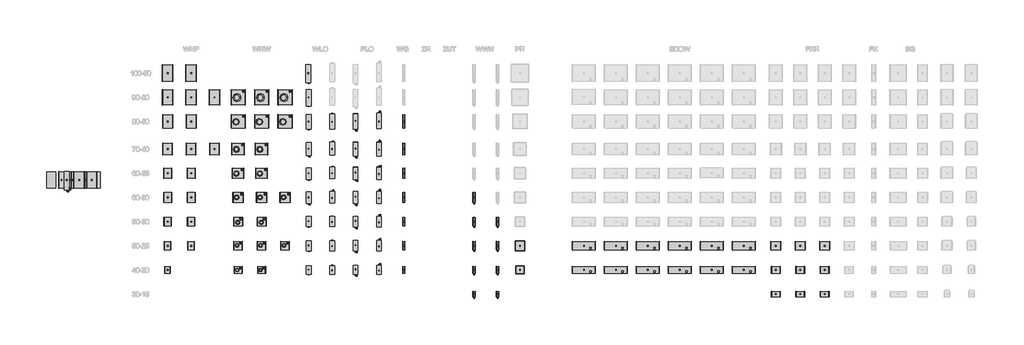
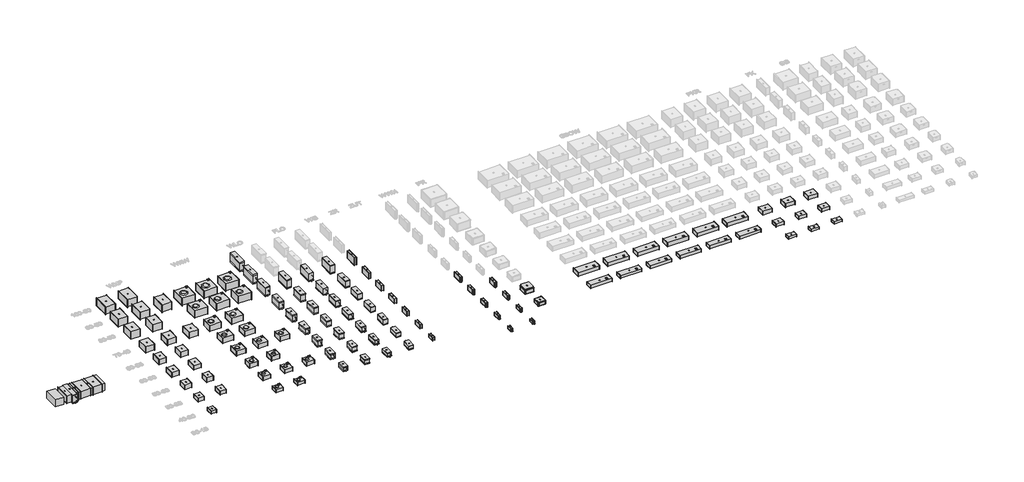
# One storey, part 1 of 9: 83 proxies, 32 dampers, 3 duct segments.
"""IFC4 building model written with IfcOpenShell, lengths in millimetres."""

from ifc_helpers import new_model, si_unit, frame, origin, place, context, project, spatial, polyline, outline, extrude, transform, mapped, element, save
from components import wnp_50_25_20_2d_491e72d1, mechanical_equipment_96fa3fb9, mechanical_equipment_ed128b01, mechanical_equipment_9e790e20, mechanical_equipment_6643551e, mechanical_equipment_3ebce5d1, mechanical_equipment_f3fb8328, mechanical_equipment_9a050dc8, wrw_40_20_20_4d_4732bad7, wrw_50_25_22_4d_2cb7c56a, wrw_50_30_25_4d_f64196a9, mechanical_equipment_9d130766, mechanical_equipment_bd0e9997, mechanical_equipment_36b7a56c, mechanical_equipment_1e1dd59d, mechanical_equipment_40f2264b, mechanical_equipment_7da425eb, mechanical_equipment_687dd05c, mechanical_equipment_ddcf3e9b, mechanical_equipment_01a4f095, mechanical_equipment_082081eb, mechanical_equipment_5a072199, mechanical_equipment_33aa0dfe, mechanical_equipment_a385d8bf, mechanical_equipment_c529c1b8, mechanical_equipment_b5ee6b95, mechanical_equipment_70065276, pr_40_20_e5f7a301, pr_50_25_8f3e1ca6, wlo_100_50_bef854ee, wlo_40_20_65b91585, wlo_40_20_1f1df35e, wlo_50_25_8c046ca8, wlo_50_25_9d767189, wlo_50_30_7f3f5454, wlo_50_30_83ce51d4, wlo_60_30_512c8331, wlo_60_30_cd8e7dff, wlo_60_35_f9e17485, wlo_60_35_79592b4e, wlo_70_40_d1fca8c2, wlo_70_40_cb6bbf7d, wlo_80_50_4877637b, wlo_80_50_446b80be, wlo_90_50_f1975830, wnp_40_20_18_2d_4dba3430, wrw_60_30_28_4d_8c32eb9e, wrw_60_35_31_4d_17e4d894, wrw_70_40_35_4d_a58d766e, wrw_80_50_40_4d_fa69a5ef, wrw_90_50_45_4d_e7116b24, wwn_100_50_2_a8e9ff89, wwn_30_15_2_497b38e8, wwn_40_20_2_b6206a83, wwn_50_25_2_c194b101, wwn_50_30_2_9f387721, wwn_60_30_2_c555eadd, damper_f009ec1c, damper_fbb5e040, damper_4ee24c56, damper_e6b95275, damper_6339f878, damper_dfc493b6, damper_105bf92a, damper_05f9109e, fku_100_50_21f81071, sg_100_50_6_c8bbc382, wg_100_50_6149abaa, wg_40_20_65d9a09b, wg_50_25_0bfe564b, wg_50_30_a35d14c7, wg_60_30_7123790e, wg_60_35_c44a4c4a, wg_70_40_4a08e537, wg_80_50_3d6b2e59

model = new_model("IFC4")

# Units and contexts
model_context = context("Model", 3, world=origin())
ifc_project = project(units=[si_unit("LENGTHUNIT", "METRE", prefix="MILLI")], contexts=[model_context])

# Site, building, storey
site = spatial("IfcSite", under=ifc_project)
building = spatial("IfcBuilding", under=site)
storey = spatial("IfcBuildingStorey", under=building, Name="KORF_Уровень 1", Elevation=0.0)

# Proxies
placement = place(None, origin())
wnp_50_25_20_2d_shape = wnp_50_25_20_2d_491e72d1(model_context)
element("IfcBuildingElementProxy", 1, Name="KORF_Вентилятор_WNP : WNP 50-25/22R.2D", ObjectType="KORF_Вентилятор_WNP : WNP 50-25/22R.2D", at=placement, inside=storey, context=model_context, shape_type="MappedRepresentation", body=[
    mapped(wnp_50_25_20_2d_shape, transform((-9665.384394, -16420.5510747, 0.0), x_axis=(1.0, 0.0, 0.0), y_axis=(0.0, 1.0, 0.0), z_axis=(0.0, 0.0, 1.0))),
])
mechanical_equipment_shape = mechanical_equipment_96fa3fb9(model_context)
element("IfcBuildingElementProxy", 2, Name="KORF_Вентилятор_WNP : WNP 50-30/22R.2D", ObjectType="KORF_Вентилятор_WNP : WNP 50-30/22R.2D", at=placement, inside=storey, context=model_context, shape_type="MappedRepresentation", body=[
    mapped(mechanical_equipment_shape, transform((-8217.332009, -14906.5702672, 0.0), x_axis=(1.0, 0.0, 0.0), y_axis=(0.0, 1.0, 0.0), z_axis=(0.0, 0.0, 1.0))),
])
element("IfcBuildingElementProxy", 3, Name="KORF_Вентилятор_WNP : WNP 50-30/25R.2D", ObjectType="KORF_Вентилятор_WNP : WNP 50-30/25R.2D", at=placement, inside=storey, context=model_context, shape_type="MappedRepresentation", body=[
    mapped(mechanical_equipment_shape, transform((-9686.384394, -14906.5702672, 0.0), x_axis=(1.0, 0.0, 0.0), y_axis=(0.0, 1.0, 0.0), z_axis=(0.0, 0.0, 1.0))),
])
mechanical_equipment_2_shape = mechanical_equipment_ed128b01(model_context)
element("IfcBuildingElementProxy", 4, Name="KORF_Вентилятор_WNP : WNP 60-30/25R.2D", ObjectType="KORF_Вентилятор_WNP : WNP 60-30/25R.2D", at=placement, inside=storey, context=model_context, shape_type="MappedRepresentation", body=[
    mapped(mechanical_equipment_2_shape, transform((-8237.332009, -13392.5894597, 0.0), x_axis=(1.0, 0.0, 0.0), y_axis=(0.0, 1.0, 0.0), z_axis=(0.0, 0.0, 1.0))),
])
element("IfcBuildingElementProxy", 5, Name="KORF_Вентилятор_WNP : WNP 60-30/28R.2D", ObjectType="KORF_Вентилятор_WNP : WNP 60-30/28R.2D", at=placement, inside=storey, context=model_context, shape_type="MappedRepresentation", body=[
    mapped(mechanical_equipment_2_shape, transform((-9706.384394, -13392.5894597, 0.0), x_axis=(1.0, 0.0, 0.0), y_axis=(0.0, 1.0, 0.0), z_axis=(0.0, 0.0, 1.0))),
])
mechanical_equipment_3_shape = mechanical_equipment_9e790e20(model_context)
element("IfcBuildingElementProxy", 6, Name="KORF_Вентилятор_WNP : WNP 60-35/28R.2D", ObjectType="KORF_Вентилятор_WNP : WNP 60-35/28R.2D", at=placement, inside=storey, context=model_context, shape_type="MappedRepresentation", body=[
    mapped(mechanical_equipment_3_shape, transform((-8237.332009, -11878.6086522, 0.0), x_axis=(1.0, 0.0, 0.0), y_axis=(0.0, 1.0, 0.0), z_axis=(0.0, 0.0, 1.0))),
])
element("IfcBuildingElementProxy", 7, Name="KORF_Вентилятор_WNP : WNP 60-35/31R.2D", ObjectType="KORF_Вентилятор_WNP : WNP 60-35/31R.2D", at=placement, inside=storey, context=model_context, shape_type="MappedRepresentation", body=[
    mapped(mechanical_equipment_3_shape, transform((-9706.384394, -11878.6086522, 0.0), x_axis=(1.0, 0.0, 0.0), y_axis=(0.0, 1.0, 0.0), z_axis=(0.0, 0.0, 1.0))),
])
mechanical_equipment_4_shape = mechanical_equipment_6643551e(model_context)
element("IfcBuildingElementProxy", 8, Name="KORF_Вентилятор_WNP : WNP 70-40/31R.2DM", ObjectType="KORF_Вентилятор_WNP : WNP 70-40/31R.2DM", at=placement, inside=storey, context=model_context, shape_type="MappedRepresentation", body=[
    mapped(mechanical_equipment_4_shape, transform((-6819.2796241, -10364.6278447, 0.0), x_axis=(1.0, 0.0, 0.0), y_axis=(0.0, 1.0, 0.0), z_axis=(0.0, 0.0, 1.0))),
])
element("IfcBuildingElementProxy", 9, Name="KORF_Вентилятор_WNP : WNP 70-40/31R.2D", ObjectType="KORF_Вентилятор_WNP : WNP 70-40/31R.2D", at=placement, inside=storey, context=model_context, shape_type="MappedRepresentation", body=[
    mapped(mechanical_equipment_4_shape, transform((-8288.332009, -10364.6278447, 0.0), x_axis=(1.0, 0.0, 0.0), y_axis=(0.0, 1.0, 0.0), z_axis=(0.0, 0.0, 1.0))),
])
element("IfcBuildingElementProxy", 10, Name="KORF_Вентилятор_WNP : WNP 70-40/35R.2D", ObjectType="KORF_Вентилятор_WNP : WNP 70-40/35R.2D", at=placement, inside=storey, context=model_context, shape_type="MappedRepresentation", body=[
    mapped(mechanical_equipment_4_shape, transform((-9757.384394, -10364.6278447, 0.0), x_axis=(1.0, 0.0, 0.0), y_axis=(0.0, 1.0, 0.0), z_axis=(0.0, 0.0, 1.0))),
])
mechanical_equipment_5_shape = mechanical_equipment_3ebce5d1(model_context)
element("IfcBuildingElementProxy", 11, Name="KORF_Вентилятор_WNP : WNP 80-50/35R.2D", ObjectType="KORF_Вентилятор_WNP : WNP 80-50/35R.2D", at=placement, inside=storey, context=model_context, shape_type="MappedRepresentation", body=[
    mapped(mechanical_equipment_5_shape, transform((-8305.832009, -8634.5126897, 0.0), x_axis=(1.0, 0.0, 0.0), y_axis=(0.0, 1.0, 0.0), z_axis=(0.0, 0.0, 1.0))),
])
element("IfcBuildingElementProxy", 12, Name="KORF_Вентилятор_WNP : WNP 80-50/40R.4D", ObjectType="KORF_Вентилятор_WNP : WNP 80-50/40R.4D", at=placement, inside=storey, context=model_context, shape_type="MappedRepresentation", body=[
    mapped(mechanical_equipment_5_shape, transform((-9774.884394, -8634.5126897, 0.0), x_axis=(1.0, 0.0, 0.0), y_axis=(0.0, 1.0, 0.0), z_axis=(0.0, 0.0, 1.0))),
])
mechanical_equipment_6_shape = mechanical_equipment_f3fb8328(model_context)
element("IfcBuildingElementProxy", 13, Name="KORF_Вентилятор_WNP : WNP 90-50/35R.2D", ObjectType="KORF_Вентилятор_WNP : WNP 90-50/35R.2D", at=placement, inside=storey, context=model_context, shape_type="MappedRepresentation", body=[
    mapped(mechanical_equipment_6_shape, transform((-6844.2796241, -7120.5318822, 0.0), x_axis=(1.0, 0.0, 0.0), y_axis=(0.0, 1.0, 0.0), z_axis=(0.0, 0.0, 1.0))),
])
element("IfcBuildingElementProxy", 14, Name="KORF_Вентилятор_WNP : WNP 90-50/40R.2D", ObjectType="KORF_Вентилятор_WNP : WNP 90-50/40R.2D", at=placement, inside=storey, context=model_context, shape_type="MappedRepresentation", body=[
    mapped(mechanical_equipment_6_shape, transform((-8313.332009, -7120.5318822, 0.0), x_axis=(1.0, 0.0, 0.0), y_axis=(0.0, 1.0, 0.0), z_axis=(0.0, 0.0, 1.0))),
])
element("IfcBuildingElementProxy", 15, Name="KORF_Вентилятор_WNP : WNP 90-50/40R.4D", ObjectType="KORF_Вентилятор_WNP : WNP 90-50/40R.4D", at=placement, inside=storey, context=model_context, shape_type="MappedRepresentation", body=[
    mapped(mechanical_equipment_6_shape, transform((-9782.384394, -7120.5318822, 0.0), x_axis=(1.0, 0.0, 0.0), y_axis=(0.0, 1.0, 0.0), z_axis=(0.0, 0.0, 1.0))),
])
mechanical_equipment_7_shape = mechanical_equipment_9a050dc8(model_context)
element("IfcBuildingElementProxy", 16, Name="KORF_Вентилятор_WNP : WNP 100-50/40R.2D", ObjectType="KORF_Вентилятор_WNP : WNP 100-50/40R.2D", at=placement, inside=storey, context=model_context, shape_type="MappedRepresentation", body=[
    mapped(mechanical_equipment_7_shape, transform((-8323.332009, -5606.5510747, 0.0), x_axis=(1.0, 0.0, 0.0), y_axis=(0.0, 1.0, 0.0), z_axis=(0.0, 0.0, 1.0))),
])
element("IfcBuildingElementProxy", 17, Name="KORF_Вентилятор_WNP : WNP 100-50/45R.4D", ObjectType="KORF_Вентилятор_WNP : WNP 100-50/45R.4D", at=placement, inside=storey, context=model_context, shape_type="MappedRepresentation", body=[
    mapped(mechanical_equipment_7_shape, transform((-9792.384394, -5606.5510747, 0.0), x_axis=(1.0, 0.0, 0.0), y_axis=(0.0, 1.0, 0.0), z_axis=(0.0, 0.0, 1.0))),
])
wrw_40_20_20_4d_shape = wrw_40_20_20_4d_4732bad7(model_context)
element("IfcBuildingElementProxy", 18, Name="KORF_Вентилятор_WRW : WRW 40-20/20.4Е", ObjectType="KORF_Вентилятор_WRW : WRW 40-20/20.4Е", at=placement, inside=storey, context=model_context, shape_type="MappedRepresentation", body=[
    mapped(wrw_40_20_20_4d_shape, transform((-5284.2272391, -17934.5318822, 0.0), x_axis=(1.0, 0.0, 0.0), y_axis=(0.0, 1.0, 0.0), z_axis=(0.0, 0.0, 1.0))),
])
wrw_50_25_22_4d_shape = wrw_50_25_22_4d_2cb7c56a(model_context)
element("IfcBuildingElementProxy", 19, Name="KORF_Вентилятор_WRW : WRW 50-25/22.4Е", ObjectType="KORF_Вентилятор_WRW : WRW 50-25/22.4Е", at=placement, inside=storey, context=model_context, shape_type="MappedRepresentation", body=[
    mapped(wrw_50_25_22_4d_shape, transform((-3846.1748541, -16420.5510747, 0.0), x_axis=(1.0, 0.0, 0.0), y_axis=(0.0, 1.0, 0.0), z_axis=(0.0, 0.0, 1.0))),
])
wrw_50_30_25_4d_shape = wrw_50_30_25_4d_f64196a9(model_context)
element("IfcBuildingElementProxy", 20, Name="KORF_Вентилятор_WRW : WRW 50-30/25.4Е", ObjectType="KORF_Вентилятор_WRW : WRW 50-30/25.4Е", at=placement, inside=storey, context=model_context, shape_type="MappedRepresentation", body=[
    mapped(wrw_50_30_25_4d_shape, transform((-5332.7272391, -14906.5702672, 0.0), x_axis=(1.0, 0.0, 0.0), y_axis=(0.0, 1.0, 0.0), z_axis=(0.0, 0.0, 1.0))),
])
mechanical_equipment_8_shape = mechanical_equipment_9d130766(model_context)
element("IfcBuildingElementProxy", 21, Name="KORF_Воздухоохладитель_Фреоновый_FLO_Левый : FLO 50-25", ObjectType="KORF_Воздухоохладитель_Фреоновый_FLO_Левый : FLO 50-25", at=placement, inside=storey, context=model_context, shape_type="MappedRepresentation", body=[
    mapped(mechanical_equipment_8_shape, transform((2142.0346858, -16377.5510747, 0.0), x_axis=(1.0, 0.0, 0.0), y_axis=(0.0, 1.0, 0.0), z_axis=(0.0, 0.0, 1.0))),
])
mechanical_equipment_9_shape = mechanical_equipment_bd0e9997(model_context)
element("IfcBuildingElementProxy", 22, Name="KORF_Воздухоохладитель_Фреоновый_FLO_Левый : FLO 50-30", ObjectType="KORF_Воздухоохладитель_Фреоновый_FLO_Левый : FLO 50-30", at=placement, inside=storey, context=model_context, shape_type="MappedRepresentation", body=[
    mapped(mechanical_equipment_9_shape, transform((2142.0346858, -14863.5702672, 0.0), x_axis=(1.0, 0.0, 0.0), y_axis=(0.0, 1.0, 0.0), z_axis=(0.0, 0.0, 1.0))),
])
mechanical_equipment_10_shape = mechanical_equipment_36b7a56c(model_context)
element("IfcBuildingElementProxy", 23, Name="KORF_Воздухоохладитель_Фреоновый_FLO_Левый : FLO 60-30", ObjectType="KORF_Воздухоохладитель_Фреоновый_FLO_Левый : FLO 60-30", at=placement, inside=storey, context=model_context, shape_type="MappedRepresentation", body=[
    mapped(mechanical_equipment_10_shape, transform((2142.0346858, -13349.5894597, 0.0), x_axis=(1.0, 0.0, 0.0), y_axis=(0.0, 1.0, 0.0), z_axis=(0.0, 0.0, 1.0))),
])
mechanical_equipment_11_shape = mechanical_equipment_1e1dd59d(model_context)
element("IfcBuildingElementProxy", 24, Name="KORF_Воздухоохладитель_Фреоновый_FLO_Левый : FLO 60-35", ObjectType="KORF_Воздухоохладитель_Фреоновый_FLO_Левый : FLO 60-35", at=placement, inside=storey, context=model_context, shape_type="MappedRepresentation", body=[
    mapped(mechanical_equipment_11_shape, transform((2142.0346858, -11835.6086522, 0.0), x_axis=(1.0, 0.0, 0.0), y_axis=(0.0, 1.0, 0.0), z_axis=(0.0, 0.0, 1.0))),
])
mechanical_equipment_12_shape = mechanical_equipment_40f2264b(model_context)
element("IfcBuildingElementProxy", 25, Name="KORF_Воздухоохладитель_Фреоновый_FLO_Левый : FLO 70-40", ObjectType="KORF_Воздухоохладитель_Фреоновый_FLO_Левый : FLO 70-40", at=placement, inside=storey, context=model_context, shape_type="MappedRepresentation", body=[
    mapped(mechanical_equipment_12_shape, transform((2142.0346858, -10321.6278447, 0.0), x_axis=(1.0, 0.0, 0.0), y_axis=(0.0, 1.0, 0.0), z_axis=(0.0, 0.0, 1.0))),
])
mechanical_equipment_13_shape = mechanical_equipment_7da425eb(model_context)
element("IfcBuildingElementProxy", 26, Name="KORF_Воздухоохладитель_Фреоновый_FLO_Левый : FLO 80-50", ObjectType="KORF_Воздухоохладитель_Фреоновый_FLO_Левый : FLO 80-50", at=placement, inside=storey, context=model_context, shape_type="MappedRepresentation", body=[
    mapped(mechanical_equipment_13_shape, transform((2142.0346858, -8591.5126897, 0.0), x_axis=(1.0, 0.0, 0.0), y_axis=(0.0, 1.0, 0.0), z_axis=(0.0, 0.0, 1.0))),
])
mechanical_equipment_14_shape = mechanical_equipment_687dd05c(model_context)
element("IfcBuildingElementProxy", 27, Name="KORF_Воздухоохладитель_Фреоновый_FLO_Левый : FLO 100-50", ObjectType="KORF_Воздухоохладитель_Фреоновый_FLO_Левый : FLO 100-50", at=placement, inside=storey, context=model_context, shape_type="MappedRepresentation", body=[
    mapped(mechanical_equipment_14_shape, transform((-15924.2183702, -12303.8330083, 0.0), x_axis=(1.0, 0.0, 0.0), y_axis=(0.0, 1.0, 0.0), z_axis=(0.0, 0.0, 1.0))),
])
mechanical_equipment_15_shape = mechanical_equipment_ddcf3e9b(model_context)
element("IfcBuildingElementProxy", 28, Name="KORF_Воздухоохладитель_Фреоновый_FLO_Левый : FLO 40-20", ObjectType="KORF_Воздухоохладитель_Фреоновый_FLO_Левый : FLO 40-20", at=placement, inside=storey, context=model_context, shape_type="MappedRepresentation", body=[
    mapped(mechanical_equipment_15_shape, transform((2142.0346858, -17891.5318822, 0.0), x_axis=(1.0, 0.0, 0.0), y_axis=(0.0, 1.0, 0.0), z_axis=(0.0, 0.0, 1.0))),
])
mechanical_equipment_16_shape = mechanical_equipment_01a4f095(model_context)
element("IfcBuildingElementProxy", 29, Name="KORF_Воздухоохладитель_Фреоновый_FLO_Правый : FLO 40-20", ObjectType="KORF_Воздухоохладитель_Фреоновый_FLO_Правый : FLO 40-20", at=placement, inside=storey, context=model_context, shape_type="MappedRepresentation", body=[
    mapped(mechanical_equipment_16_shape, transform((3611.0870707, -17977.5318822, 0.0), x_axis=(1.0, 0.0, 0.0), y_axis=(0.0, 1.0, 0.0), z_axis=(0.0, 0.0, 1.0))),
])
mechanical_equipment_17_shape = mechanical_equipment_082081eb(model_context)
element("IfcBuildingElementProxy", 30, Name="KORF_Воздухоохладитель_Фреоновый_FLO_Правый : FLO 50-25", ObjectType="KORF_Воздухоохладитель_Фреоновый_FLO_Правый : FLO 50-25", at=placement, inside=storey, context=model_context, shape_type="MappedRepresentation", body=[
    mapped(mechanical_equipment_17_shape, transform((3611.0870707, -16463.5510747, 0.0), x_axis=(1.0, 0.0, 0.0), y_axis=(0.0, 1.0, 0.0), z_axis=(0.0, 0.0, 1.0))),
])
mechanical_equipment_18_shape = mechanical_equipment_5a072199(model_context)
element("IfcBuildingElementProxy", 31, Name="KORF_Воздухоохладитель_Фреоновый_FLO_Правый : FLO 50-30", ObjectType="KORF_Воздухоохладитель_Фреоновый_FLO_Правый : FLO 50-30", at=placement, inside=storey, context=model_context, shape_type="MappedRepresentation", body=[
    mapped(mechanical_equipment_18_shape, transform((3611.0870707, -14949.5702672, 0.0), x_axis=(1.0, 0.0, 0.0), y_axis=(0.0, 1.0, 0.0), z_axis=(0.0, 0.0, 1.0))),
])
mechanical_equipment_19_shape = mechanical_equipment_33aa0dfe(model_context)
element("IfcBuildingElementProxy", 32, Name="KORF_Воздухоохладитель_Фреоновый_FLO_Правый : FLO 60-30", ObjectType="KORF_Воздухоохладитель_Фреоновый_FLO_Правый : FLO 60-30", at=placement, inside=storey, context=model_context, shape_type="MappedRepresentation", body=[
    mapped(mechanical_equipment_19_shape, transform((3611.0870707, -13435.5894597, 0.0), x_axis=(1.0, 0.0, 0.0), y_axis=(0.0, 1.0, 0.0), z_axis=(0.0, 0.0, 1.0))),
])
mechanical_equipment_20_shape = mechanical_equipment_a385d8bf(model_context)
element("IfcBuildingElementProxy", 33, Name="KORF_Воздухоохладитель_Фреоновый_FLO_Правый : FLO 60-35", ObjectType="KORF_Воздухоохладитель_Фреоновый_FLO_Правый : FLO 60-35", at=placement, inside=storey, context=model_context, shape_type="MappedRepresentation", body=[
    mapped(mechanical_equipment_20_shape, transform((3611.0870707, -11921.6086522, 0.0), x_axis=(1.0, 0.0, 0.0), y_axis=(0.0, 1.0, 0.0), z_axis=(0.0, 0.0, 1.0))),
])
mechanical_equipment_21_shape = mechanical_equipment_c529c1b8(model_context)
element("IfcBuildingElementProxy", 34, Name="KORF_Воздухоохладитель_Фреоновый_FLO_Правый : FLO 70-40", ObjectType="KORF_Воздухоохладитель_Фреоновый_FLO_Правый : FLO 70-40", at=placement, inside=storey, context=model_context, shape_type="MappedRepresentation", body=[
    mapped(mechanical_equipment_21_shape, transform((3611.0870707, -10407.6278447, 0.0), x_axis=(1.0, 0.0, 0.0), y_axis=(0.0, 1.0, 0.0), z_axis=(0.0, 0.0, 1.0))),
])
mechanical_equipment_22_shape = mechanical_equipment_b5ee6b95(model_context)
element("IfcBuildingElementProxy", 35, Name="KORF_Воздухоохладитель_Фреоновый_FLO_Правый : FLO 80-50", ObjectType="KORF_Воздухоохладитель_Фреоновый_FLO_Правый : FLO 80-50", at=placement, inside=storey, context=model_context, shape_type="MappedRepresentation", body=[
    mapped(mechanical_equipment_22_shape, transform((3611.0870707, -8634.5126897, 0.0), x_axis=(1.0, 0.0, 0.0), y_axis=(0.0, 1.0, 0.0), z_axis=(0.0, 0.0, 1.0))),
])
mechanical_equipment_23_shape = mechanical_equipment_70065276(model_context)
element("IfcBuildingElementProxy", 36, Name="KORF_Вентилятор_WNP : WNP 100-50/45R.4D", ObjectType="KORF_Вентилятор_WNP : WNP 100-50/45R.4D", at=placement, inside=storey, context=model_context, shape_type="MappedRepresentation", body=[
    mapped(mechanical_equipment_23_shape, transform((-14656.2183702, -12303.8330083, 0.0), x_axis=(-1.0, 0.0, 0.0), y_axis=(0.0, -1.0, 0.0), z_axis=(0.0, 0.0, 1.0))),
])
pr_40_20_shape = pr_40_20_e5f7a301(model_context)
element("IfcBuildingElementProxy", 37, Name="KORF_Рекуператор_Пластинчатый_PR : PR 40-20", ObjectType="KORF_Рекуператор_Пластинчатый_PR : PR 40-20", at=placement, inside=storey, context=model_context, shape_type="MappedRepresentation", body=[
    mapped(pr_40_20_shape, transform((12320.4013805, -17934.5318822, 0.0), x_axis=(1.0, 0.0, 0.0), y_axis=(0.0, 1.0, 0.0), z_axis=(0.0, 0.0, 1.0))),
])
pr_50_25_shape = pr_50_25_8f3e1ca6(model_context)
element("IfcBuildingElementProxy", 38, Name="KORF_Рекуператор_Пластинчатый_PR : PR 50-25", ObjectType="KORF_Рекуператор_Пластинчатый_PR : PR 50-25", at=placement, inside=storey, context=model_context, shape_type="MappedRepresentation", body=[
    mapped(pr_50_25_shape, transform((12270.4013805, -16420.5510747, 0.0), x_axis=(1.0, 0.0, 0.0), y_axis=(0.0, 1.0, 0.0), z_axis=(0.0, 0.0, 1.0))),
])
wlo_100_50_shape = wlo_100_50_bef854ee(model_context)
element("IfcBuildingElementProxy", 39, Name="KORF_Воздухоохладитель_Водяной_WLO_Левый : WLO 100-50", ObjectType="KORF_Воздухоохладитель_Водяной_WLO_Левый : WLO 100-50", at=placement, inside=storey, context=model_context, shape_type="MappedRepresentation", body=[
    mapped(wlo_100_50_shape, transform((-814.0700842, -5606.5510747, 0.0), x_axis=(1.0, 0.0, 0.0), y_axis=(0.0, 1.0, 0.0), z_axis=(0.0, 0.0, 1.0))),
])
wlo_40_20_shape = wlo_40_20_65b91585(model_context)
element("IfcBuildingElementProxy", 40, Name="KORF_Воздухоохладитель_Водяной_WLO_Левый : WLO 40-20", ObjectType="KORF_Воздухоохладитель_Водяной_WLO_Левый : WLO 40-20", at=placement, inside=storey, context=model_context, shape_type="MappedRepresentation", body=[
    mapped(wlo_40_20_shape, transform((-801.0700842, -17908.5318822, 0.0), x_axis=(1.0, 0.0, 0.0), y_axis=(0.0, 1.0, 0.0), z_axis=(0.0, 0.0, 1.0))),
])
wlo_40_20_2_shape = wlo_40_20_1f1df35e(model_context)
element("IfcBuildingElementProxy", 41, Name="KORF_Воздухоохладитель_Водяной_WLO_Правый : WLO 40-20", ObjectType="KORF_Воздухоохладитель_Водяной_WLO_Правый : WLO 40-20", at=placement, inside=storey, context=model_context, shape_type="MappedRepresentation", body=[
    mapped(wlo_40_20_2_shape, transform((667.9823008, -17960.5318822, 0.0), x_axis=(1.0, 0.0, 0.0), y_axis=(0.0, 1.0, 0.0), z_axis=(0.0, 0.0, 1.0))),
])
wlo_50_25_shape = wlo_50_25_8c046ca8(model_context)
element("IfcBuildingElementProxy", 42, Name="KORF_Воздухоохладитель_Водяной_WLO_Левый : WLO 50-25", ObjectType="KORF_Воздухоохладитель_Водяной_WLO_Левый : WLO 50-25", at=placement, inside=storey, context=model_context, shape_type="MappedRepresentation", body=[
    mapped(wlo_50_25_shape, transform((-801.0700842, -16394.5510747, 0.0), x_axis=(1.0, 0.0, 0.0), y_axis=(0.0, 1.0, 0.0), z_axis=(0.0, 0.0, 1.0))),
])
wlo_50_25_2_shape = wlo_50_25_9d767189(model_context)
element("IfcBuildingElementProxy", 43, Name="KORF_Воздухоохладитель_Водяной_WLO_Правый : WLO 50-25", ObjectType="KORF_Воздухоохладитель_Водяной_WLO_Правый : WLO 50-25", at=placement, inside=storey, context=model_context, shape_type="MappedRepresentation", body=[
    mapped(wlo_50_25_2_shape, transform((667.9823008, -16446.5510747, 0.0), x_axis=(1.0, 0.0, 0.0), y_axis=(0.0, 1.0, 0.0), z_axis=(0.0, 0.0, 1.0))),
])
wlo_50_30_shape = wlo_50_30_7f3f5454(model_context)
element("IfcBuildingElementProxy", 44, Name="KORF_Воздухоохладитель_Водяной_WLO_Левый : WLO 50-30", ObjectType="KORF_Воздухоохладитель_Водяной_WLO_Левый : WLO 50-30", at=placement, inside=storey, context=model_context, shape_type="MappedRepresentation", body=[
    mapped(wlo_50_30_shape, transform((-801.0700842, -14880.5702672, 0.0), x_axis=(1.0, 0.0, 0.0), y_axis=(0.0, 1.0, 0.0), z_axis=(0.0, 0.0, 1.0))),
])
wlo_50_30_2_shape = wlo_50_30_83ce51d4(model_context)
element("IfcBuildingElementProxy", 45, Name="KORF_Воздухоохладитель_Водяной_WLO_Правый : WLO 50-30", ObjectType="KORF_Воздухоохладитель_Водяной_WLO_Правый : WLO 50-30", at=placement, inside=storey, context=model_context, shape_type="MappedRepresentation", body=[
    mapped(wlo_50_30_2_shape, transform((667.9823008, -14932.5702672, 0.0), x_axis=(1.0, 0.0, 0.0), y_axis=(0.0, 1.0, 0.0), z_axis=(0.0, 0.0, 1.0))),
])
wlo_60_30_shape = wlo_60_30_512c8331(model_context)
element("IfcBuildingElementProxy", 46, Name="KORF_Воздухоохладитель_Водяной_WLO_Левый : WLO 60-30", ObjectType="KORF_Воздухоохладитель_Водяной_WLO_Левый : WLO 60-30", at=placement, inside=storey, context=model_context, shape_type="MappedRepresentation", body=[
    mapped(wlo_60_30_shape, transform((-801.0700842, -13392.5894597, 0.0), x_axis=(1.0, 0.0, 0.0), y_axis=(0.0, 1.0, 0.0), z_axis=(0.0, 0.0, 1.0))),
])
wlo_60_30_2_shape = wlo_60_30_cd8e7dff(model_context)
element("IfcBuildingElementProxy", 47, Name="KORF_Воздухоохладитель_Водяной_WLO_Правый : WLO 60-30", ObjectType="KORF_Воздухоохладитель_Водяной_WLO_Правый : WLO 60-30", at=placement, inside=storey, context=model_context, shape_type="MappedRepresentation", body=[
    mapped(wlo_60_30_2_shape, transform((667.9823008, -13417.5894597, 0.0), x_axis=(1.0, 0.0, 0.0), y_axis=(0.0, 1.0, 0.0), z_axis=(0.0, 0.0, 1.0))),
])
wlo_60_35_shape = wlo_60_35_f9e17485(model_context)
element("IfcBuildingElementProxy", 48, Name="KORF_Воздухоохладитель_Водяной_WLO_Левый : WLO 60-35", ObjectType="KORF_Воздухоохладитель_Водяной_WLO_Левый : WLO 60-35", at=placement, inside=storey, context=model_context, shape_type="MappedRepresentation", body=[
    mapped(wlo_60_35_shape, transform((-801.0700842, -11878.6086522, 0.0), x_axis=(1.0, 0.0, 0.0), y_axis=(0.0, 1.0, 0.0), z_axis=(0.0, 0.0, 1.0))),
])
wlo_60_35_2_shape = wlo_60_35_79592b4e(model_context)
element("IfcBuildingElementProxy", 49, Name="KORF_Воздухоохладитель_Водяной_WLO_Правый : WLO 60-35", ObjectType="KORF_Воздухоохладитель_Водяной_WLO_Правый : WLO 60-35", at=placement, inside=storey, context=model_context, shape_type="MappedRepresentation", body=[
    mapped(wlo_60_35_2_shape, transform((667.9823008, -11878.6086522, 0.0), x_axis=(1.0, 0.0, 0.0), y_axis=(0.0, 1.0, 0.0), z_axis=(0.0, 0.0, 1.0))),
])
wlo_70_40_shape = wlo_70_40_d1fca8c2(model_context)
element("IfcBuildingElementProxy", 50, Name="KORF_Воздухоохладитель_Водяной_WLO_Левый : WLO 70-40", ObjectType="KORF_Воздухоохладитель_Водяной_WLO_Левый : WLO 70-40", at=placement, inside=storey, context=model_context, shape_type="MappedRepresentation", body=[
    mapped(wlo_70_40_shape, transform((-801.0700842, -10338.6278447, 0.0), x_axis=(1.0, 0.0, 0.0), y_axis=(0.0, 1.0, 0.0), z_axis=(0.0, 0.0, 1.0))),
])
wlo_70_40_2_shape = wlo_70_40_cb6bbf7d(model_context)
element("IfcBuildingElementProxy", 51, Name="KORF_Воздухоохладитель_Водяной_WLO_Правый : WLO 70-40", ObjectType="KORF_Воздухоохладитель_Водяной_WLO_Правый : WLO 70-40", at=placement, inside=storey, context=model_context, shape_type="MappedRepresentation", body=[
    mapped(wlo_70_40_2_shape, transform((667.9823008, -10364.6278447, 0.0), x_axis=(1.0, 0.0, 0.0), y_axis=(0.0, 1.0, 0.0), z_axis=(0.0, 0.0, 1.0))),
])
wlo_80_50_shape = wlo_80_50_4877637b(model_context)
element("IfcBuildingElementProxy", 52, Name="KORF_Воздухоохладитель_Водяной_WLO_Левый : WLO 80-50", ObjectType="KORF_Воздухоохладитель_Водяной_WLO_Левый : WLO 80-50", at=placement, inside=storey, context=model_context, shape_type="MappedRepresentation", body=[
    mapped(wlo_80_50_shape, transform((-801.0700842, -8634.5126897, 0.0), x_axis=(1.0, 0.0, 0.0), y_axis=(0.0, 1.0, 0.0), z_axis=(0.0, 0.0, 1.0))),
])
wlo_80_50_2_shape = wlo_80_50_446b80be(model_context)
element("IfcBuildingElementProxy", 53, Name="KORF_Воздухоохладитель_Водяной_WLO_Правый : WLO 80-50", ObjectType="KORF_Воздухоохладитель_Водяной_WLO_Правый : WLO 80-50", at=placement, inside=storey, context=model_context, shape_type="MappedRepresentation", body=[
    mapped(wlo_80_50_2_shape, transform((667.9823008, -8659.5126897, 0.0), x_axis=(1.0, 0.0, 0.0), y_axis=(0.0, 1.0, 0.0), z_axis=(0.0, 0.0, 1.0))),
])
wlo_90_50_shape = wlo_90_50_f1975830(model_context)
element("IfcBuildingElementProxy", 54, Name="KORF_Воздухоохладитель_Водяной_WLO_Левый : WLO 90-50", ObjectType="KORF_Воздухоохладитель_Водяной_WLO_Левый : WLO 90-50", at=placement, inside=storey, context=model_context, shape_type="MappedRepresentation", body=[
    mapped(wlo_90_50_shape, transform((-801.0700842, -7120.5318822, 0.0), x_axis=(1.0, 0.0, 0.0), y_axis=(0.0, 1.0, 0.0), z_axis=(0.0, 0.0, 1.0))),
])
wnp_40_20_18_2d_shape = wnp_40_20_18_2d_4dba3430(model_context)
element("IfcBuildingElementProxy", 55, Name="KORF_Вентилятор_WNP : WNP 40-20/18.2D", ObjectType="KORF_Вентилятор_WNP : WNP 40-20/18.2D", at=placement, inside=storey, context=model_context, shape_type="MappedRepresentation", body=[
    mapped(wnp_40_20_18_2d_shape, transform((-9636.384394, -17934.5318822, 0.0), x_axis=(1.0, 0.0, 0.0), y_axis=(0.0, 1.0, 0.0), z_axis=(0.0, 0.0, 1.0))),
])
element("IfcBuildingElementProxy", 56, Name="KORF_Вентилятор_WNP : WNP 50-25/20.2D", ObjectType="KORF_Вентилятор_WNP : WNP 50-25/20.2D", at=placement, inside=storey, context=model_context, shape_type="MappedRepresentation", body=[
    mapped(wnp_50_25_20_2d_shape, transform((-8196.332009, -16420.5510747, 0.0), x_axis=(1.0, 0.0, 0.0), y_axis=(0.0, 1.0, 0.0), z_axis=(0.0, 0.0, 1.0))),
])
element("IfcBuildingElementProxy", 57, Name="KORF_Вентилятор_WRW : WRW 40-20/20.4D", ObjectType="KORF_Вентилятор_WRW : WRW 40-20/20.4D", at=placement, inside=storey, context=model_context, shape_type="MappedRepresentation", body=[
    mapped(wrw_40_20_20_4d_shape, transform((-3831.1748541, -17934.5318822, 0.0), x_axis=(1.0, 0.0, 0.0), y_axis=(0.0, 1.0, 0.0), z_axis=(0.0, 0.0, 1.0))),
])
element("IfcBuildingElementProxy", 58, Name="KORF_Вентилятор_WRW : WRW 50-25/22.4D", ObjectType="KORF_Вентилятор_WRW : WRW 50-25/22.4D", at=placement, inside=storey, context=model_context, shape_type="MappedRepresentation", body=[
    mapped(wrw_50_25_22_4d_shape, transform((-5315.2272391, -16420.5510747, 0.0), x_axis=(1.0, 0.0, 0.0), y_axis=(0.0, 1.0, 0.0), z_axis=(0.0, 0.0, 1.0))),
])
element("IfcBuildingElementProxy", 59, Name="KORF_Вентилятор_WRW : WRW 50-25/22.6D", ObjectType="KORF_Вентилятор_WRW : WRW 50-25/22.6D", at=placement, inside=storey, context=model_context, shape_type="MappedRepresentation", body=[
    mapped(wrw_50_25_22_4d_shape, transform((-2377.1224692, -16420.5510747, 0.0), x_axis=(1.0, 0.0, 0.0), y_axis=(0.0, 1.0, 0.0), z_axis=(0.0, 0.0, 1.0))),
])
element("IfcBuildingElementProxy", 60, Name="KORF_Вентилятор_WRW : WRW 50-30/25.4D", ObjectType="KORF_Вентилятор_WRW : WRW 50-30/25.4D", at=placement, inside=storey, context=model_context, shape_type="MappedRepresentation", body=[
    mapped(wrw_50_30_25_4d_shape, transform((-3863.6748541, -14906.5702672, 0.0), x_axis=(1.0, 0.0, 0.0), y_axis=(0.0, 1.0, 0.0), z_axis=(0.0, 0.0, 1.0))),
])
wrw_60_30_28_4d_shape = wrw_60_30_28_4d_8c32eb9e(model_context)
element("IfcBuildingElementProxy", 61, Name="KORF_Вентилятор_WRW : WRW 60-30/28.4D", ObjectType="KORF_Вентилятор_WRW : WRW 60-30/28.4D", at=placement, inside=storey, context=model_context, shape_type="MappedRepresentation", body=[
    mapped(wrw_60_30_28_4d_shape, transform((-2433.1224692, -13392.5894597, 0.0), x_axis=(1.0, 0.0, 0.0), y_axis=(0.0, 1.0, 0.0), z_axis=(0.0, 0.0, 1.0))),
])
element("IfcBuildingElementProxy", 62, Name="KORF_Вентилятор_WRW : WRW 60-30/28.4E", ObjectType="KORF_Вентилятор_WRW : WRW 60-30/28.4E", at=placement, inside=storey, context=model_context, shape_type="MappedRepresentation", body=[
    mapped(wrw_60_30_28_4d_shape, transform((-3902.1748541, -13392.5894597, 0.0), x_axis=(1.0, 0.0, 0.0), y_axis=(0.0, 1.0, 0.0), z_axis=(0.0, 0.0, 1.0))),
])
element("IfcBuildingElementProxy", 63, Name="KORF_Вентилятор_WRW : WRW 60-30/28.6D", ObjectType="KORF_Вентилятор_WRW : WRW 60-30/28.6D", at=placement, inside=storey, context=model_context, shape_type="MappedRepresentation", body=[
    mapped(wrw_60_30_28_4d_shape, transform((-5371.2272391, -13392.5702672, 0.0), x_axis=(1.0, 0.0, 0.0), y_axis=(0.0, 1.0, 0.0), z_axis=(0.0, 0.0, 1.0))),
])
wrw_60_35_31_4d_shape = wrw_60_35_31_4d_17e4d894(model_context)
element("IfcBuildingElementProxy", 64, Name="KORF_Вентилятор_WRW : WRW 60-35/31.4D", ObjectType="KORF_Вентилятор_WRW : WRW 60-35/31.4D", at=placement, inside=storey, context=model_context, shape_type="MappedRepresentation", body=[
    mapped(wrw_60_35_31_4d_shape, transform((-3941.1748541, -11878.6086522, 0.0), x_axis=(1.0, 0.0, 0.0), y_axis=(0.0, 1.0, 0.0), z_axis=(0.0, 0.0, 1.0))),
])
element("IfcBuildingElementProxy", 65, Name="KORF_Вентилятор_WRW : WRW 60-35/31.6D", ObjectType="KORF_Вентилятор_WRW : WRW 60-35/31.6D", at=placement, inside=storey, context=model_context, shape_type="MappedRepresentation", body=[
    mapped(wrw_60_35_31_4d_shape, transform((-5410.2272391, -11878.6086522, 0.0), x_axis=(1.0, 0.0, 0.0), y_axis=(0.0, 1.0, 0.0), z_axis=(0.0, 0.0, 1.0))),
])
wrw_70_40_35_4d_shape = wrw_70_40_35_4d_a58d766e(model_context)
element("IfcBuildingElementProxy", 66, Name="KORF_Вентилятор_WRW : WRW 70-40/35.4D", ObjectType="KORF_Вентилятор_WRW : WRW 70-40/35.4D", at=placement, inside=storey, context=model_context, shape_type="MappedRepresentation", body=[
    mapped(wrw_70_40_35_4d_shape, transform((-3971.1748541, -10364.6278447, 0.0), x_axis=(1.0, 0.0, 0.0), y_axis=(0.0, 1.0, 0.0), z_axis=(0.0, 0.0, 1.0))),
])
element("IfcBuildingElementProxy", 67, Name="KORF_Вентилятор_WRW : WRW 70-40/35.6D", ObjectType="KORF_Вентилятор_WRW : WRW 70-40/35.6D", at=placement, inside=storey, context=model_context, shape_type="MappedRepresentation", body=[
    mapped(wrw_70_40_35_4d_shape, transform((-5440.2272391, -10364.6086522, 0.0), x_axis=(1.0, 0.0, 0.0), y_axis=(0.0, 1.0, 0.0), z_axis=(0.0, 0.0, 1.0))),
])
wrw_80_50_40_4d_shape = wrw_80_50_40_4d_fa69a5ef(model_context)
element("IfcBuildingElementProxy", 68, Name="KORF_Вентилятор_WRW : WRW 80-50/40.4D", ObjectType="KORF_Вентилятор_WRW : WRW 80-50/40.4D", at=placement, inside=storey, context=model_context, shape_type="MappedRepresentation", body=[
    mapped(wrw_80_50_40_4d_shape, transform((-2554.6224692, -8634.5126897, 0.0), x_axis=(1.0, 0.0, 0.0), y_axis=(0.0, 1.0, 0.0), z_axis=(0.0, 0.0, 1.0))),
])
element("IfcBuildingElementProxy", 69, Name="KORF_Вентилятор_WRW : WRW 80-50/40.6D", ObjectType="KORF_Вентилятор_WRW : WRW 80-50/40.6D", at=placement, inside=storey, context=model_context, shape_type="MappedRepresentation", body=[
    mapped(wrw_80_50_40_4d_shape, transform((-4023.6748541, -8634.5126897, 0.0), x_axis=(1.0, 0.0, 0.0), y_axis=(0.0, 1.0, 0.0), z_axis=(0.0, 0.0, 1.0))),
])
element("IfcBuildingElementProxy", 70, Name="KORF_Вентилятор_WRW : WRW 80-50/40.8D", ObjectType="KORF_Вентилятор_WRW : WRW 80-50/40.8D", at=placement, inside=storey, context=model_context, shape_type="MappedRepresentation", body=[
    mapped(wrw_80_50_40_4d_shape, transform((-5492.7272391, -8634.5126897, 0.0), x_axis=(1.0, 0.0, 0.0), y_axis=(0.0, 1.0, 0.0), z_axis=(0.0, 0.0, 1.0))),
])
wrw_90_50_45_4d_shape = wrw_90_50_45_4d_e7116b24(model_context)
element("IfcBuildingElementProxy", 71, Name="KORF_Вентилятор_WRW : WRW 90-50/45.4D", ObjectType="KORF_Вентилятор_WRW : WRW 90-50/45.4D", at=placement, inside=storey, context=model_context, shape_type="MappedRepresentation", body=[
    mapped(wrw_90_50_45_4d_shape, transform((-4023.6748541, -7120.5318822, 0.0), x_axis=(1.0, 0.0, 0.0), y_axis=(0.0, 1.0, 0.0), z_axis=(0.0, 0.0, 1.0))),
])
element("IfcBuildingElementProxy", 72, Name="KORF_Вентилятор_WRW : WRW 90-50/45.6D", ObjectType="KORF_Вентилятор_WRW : WRW 90-50/45.6D", at=placement, inside=storey, context=model_context, shape_type="MappedRepresentation", body=[
    mapped(wrw_90_50_45_4d_shape, transform((-5492.7272391, -7120.5318822, 0.0), x_axis=(1.0, 0.0, 0.0), y_axis=(0.0, 1.0, 0.0), z_axis=(0.0, 0.0, 1.0))),
])
element("IfcBuildingElementProxy", 73, Name="KORF_Вентилятор_WRW : WRW 90-50/45.8D", ObjectType="KORF_Вентилятор_WRW : WRW 90-50/45.8D", at=placement, inside=storey, context=model_context, shape_type="MappedRepresentation", body=[
    mapped(wrw_90_50_45_4d_shape, transform((-2554.6224692, -7120.5318822, 0.0), x_axis=(1.0, 0.0, 0.0), y_axis=(0.0, 1.0, 0.0), z_axis=(0.0, 0.0, 1.0))),
])
wwn_100_50_2_shape = wwn_100_50_2_a8e9ff89(model_context)
element("IfcBuildingElementProxy", 74, Name="KORF_Нагреватель_Водяной_WWN : WWN 100-50/2", ObjectType="KORF_Нагреватель_Водяной_WWN : WWN 100-50/2", at=placement, inside=storey, context=model_context, shape_type="MappedRepresentation", body=[
    mapped(wwn_100_50_2_shape, transform((-15626.2183702, -12303.8330083, 0.0), x_axis=(1.0, 0.0, 0.0), y_axis=(0.0, 1.0, 0.0), z_axis=(0.0, 0.0, 1.0))),
])
wwn_30_15_2_shape = wwn_30_15_2_497b38e8(model_context)
element("IfcBuildingElementProxy", 75, Name="KORF_Нагреватель_Водяной_WWN : WWN 30-15/2", ObjectType="KORF_Нагреватель_Водяной_WWN : WWN 30-15/2", at=placement, inside=storey, context=model_context, shape_type="MappedRepresentation", body=[
    mapped(wwn_30_15_2_shape, transform((9640.2966106, -19448.5126897, 0.0), x_axis=(1.0, 0.0, 0.0), y_axis=(0.0, 1.0, 0.0), z_axis=(0.0, 0.0, 1.0))),
])
element("IfcBuildingElementProxy", 76, Name="KORF_Нагреватель_Водяной_WWN : WWN 30-15/3", ObjectType="KORF_Нагреватель_Водяной_WWN : WWN 30-15/3", at=placement, inside=storey, context=model_context, shape_type="MappedRepresentation", body=[
    mapped(wwn_30_15_2_shape, transform((11109.3489956, -19448.5126897, 0.0), x_axis=(1.0, 0.0, 0.0), y_axis=(0.0, 1.0, 0.0), z_axis=(0.0, 0.0, 1.0))),
])
wwn_40_20_2_shape = wwn_40_20_2_b6206a83(model_context)
element("IfcBuildingElementProxy", 77, Name="KORF_Нагреватель_Водяной_WWN : WWN 40-20/2", ObjectType="KORF_Нагреватель_Водяной_WWN : WWN 40-20/2", at=placement, inside=storey, context=model_context, shape_type="MappedRepresentation", body=[
    mapped(wwn_40_20_2_shape, transform((9640.2966106, -17934.5318822, 0.0), x_axis=(1.0, 0.0, 0.0), y_axis=(0.0, 1.0, 0.0), z_axis=(0.0, 0.0, 1.0))),
])
element("IfcBuildingElementProxy", 78, Name="KORF_Нагреватель_Водяной_WWN : WWN 40-20/3", ObjectType="KORF_Нагреватель_Водяной_WWN : WWN 40-20/3", at=placement, inside=storey, context=model_context, shape_type="MappedRepresentation", body=[
    mapped(wwn_40_20_2_shape, transform((11109.3489956, -17934.5318822, 0.0), x_axis=(1.0, 0.0, 0.0), y_axis=(0.0, 1.0, 0.0), z_axis=(0.0, 0.0, 1.0))),
])
wwn_50_25_2_shape = wwn_50_25_2_c194b101(model_context)
element("IfcBuildingElementProxy", 79, Name="KORF_Нагреватель_Водяной_WWN : WWN 50-25/2", ObjectType="KORF_Нагреватель_Водяной_WWN : WWN 50-25/2", at=placement, inside=storey, context=model_context, shape_type="MappedRepresentation", body=[
    mapped(wwn_50_25_2_shape, transform((9640.2966106, -16420.5510747, 0.0), x_axis=(1.0, 0.0, 0.0), y_axis=(0.0, 1.0, 0.0), z_axis=(0.0, 0.0, 1.0))),
])
element("IfcBuildingElementProxy", 80, Name="KORF_Нагреватель_Водяной_WWN : WWN 50-25/3", ObjectType="KORF_Нагреватель_Водяной_WWN : WWN 50-25/3", at=placement, inside=storey, context=model_context, shape_type="MappedRepresentation", body=[
    mapped(wwn_50_25_2_shape, transform((11109.3489956, -16420.5510747, 0.0), x_axis=(1.0, 0.0, 0.0), y_axis=(0.0, 1.0, 0.0), z_axis=(0.0, 0.0, 1.0))),
])
wwn_50_30_2_shape = wwn_50_30_2_9f387721(model_context)
element("IfcBuildingElementProxy", 81, Name="KORF_Нагреватель_Водяной_WWN : WWN 50-30/2", ObjectType="KORF_Нагреватель_Водяной_WWN : WWN 50-30/2", at=placement, inside=storey, context=model_context, shape_type="MappedRepresentation", body=[
    mapped(wwn_50_30_2_shape, transform((9640.2966106, -14906.5702672, 0.0), x_axis=(1.0, 0.0, 0.0), y_axis=(0.0, 1.0, 0.0), z_axis=(0.0, 0.0, 1.0))),
])
element("IfcBuildingElementProxy", 82, Name="KORF_Нагреватель_Водяной_WWN : WWN 50-30/3", ObjectType="KORF_Нагреватель_Водяной_WWN : WWN 50-30/3", at=placement, inside=storey, context=model_context, shape_type="MappedRepresentation", body=[
    mapped(wwn_50_30_2_shape, transform((11109.3489956, -14906.5702672, 0.0), x_axis=(1.0, 0.0, 0.0), y_axis=(0.0, 1.0, 0.0), z_axis=(0.0, 0.0, 1.0))),
])
wwn_60_30_2_shape = wwn_60_30_2_c555eadd(model_context)
element("IfcBuildingElementProxy", 83, Name="KORF_Нагреватель_Водяной_WWN : WWN 60-30/2", ObjectType="KORF_Нагреватель_Водяной_WWN : WWN 60-30/2", at=placement, inside=storey, context=model_context, shape_type="MappedRepresentation", body=[
    mapped(wwn_60_30_2_shape, transform((9640.2966106, -13392.5894597, 0.0), x_axis=(1.0, 0.0, 0.0), y_axis=(0.0, 1.0, 0.0), z_axis=(0.0, 0.0, 1.0))),
])

# Dampers
damper_shape = damper_f009ec1c(model_context)
element("IfcDamper", 84, ObjectType="KORF_Секция бактерицидной обработки воздуха_SBOW : SBOW 40-20/143", at=placement, inside=storey, context=model_context, shape_type="MappedRepresentation", body=[
    mapped(damper_shape, transform((19858.4013805, -17934.5318822, 0.0), x_axis=(1.0, 0.0, 0.0), y_axis=(0.0, 1.0, 0.0), z_axis=(0.0, 0.0, 1.0))),
])
element("IfcDamper", 85, ObjectType="KORF_Секция бактерицидной обработки воздуха_SBOW : SBOW 40-20/95", at=placement, inside=storey, context=model_context, shape_type="MappedRepresentation", body=[
    mapped(damper_shape, transform((21858.1736044, -17934.5318822, 0.0), x_axis=(1.0, 0.0, 0.0), y_axis=(0.0, 1.0, 0.0), z_axis=(0.0, 0.0, 1.0))),
])
element("IfcDamper", 86, ObjectType="KORF_Секция бактерицидной обработки воздуха_SBOW : SBOW 40-20/63", at=placement, inside=storey, context=model_context, shape_type="MappedRepresentation", body=[
    mapped(damper_shape, transform((17858.4013805, -17934.5318822, 0.0), x_axis=(1.0, 0.0, 0.0), y_axis=(0.0, 1.0, 0.0), z_axis=(0.0, 0.0, 1.0))),
])
element("IfcDamper", 87, ObjectType="KORF_Секция бактерицидной обработки воздуха_SBOW : SBOW 40-20/32", at=placement, inside=storey, context=model_context, shape_type="MappedRepresentation", body=[
    mapped(damper_shape, transform((15858.4013805, -17934.5318822, 0.0), x_axis=(1.0, 0.0, 0.0), y_axis=(0.0, 1.0, 0.0), z_axis=(0.0, 0.0, 1.0))),
])
damper_2_shape = damper_fbb5e040(model_context)
element("IfcDamper", 88, ObjectType="KORF_Секция бактерицидной обработки воздуха_SBOW : SBOW 50-25/159", at=placement, inside=storey, context=model_context, shape_type="MappedRepresentation", body=[
    mapped(damper_2_shape, transform((21858.1736044, -16420.5510747, 0.0), x_axis=(1.0, 0.0, 0.0), y_axis=(0.0, 1.0, 0.0), z_axis=(0.0, 0.0, 1.0))),
])
element("IfcDamper", 89, ObjectType="KORF_Секция бактерицидной обработки воздуха_SBOW : SBOW 50-25/111", at=placement, inside=storey, context=model_context, shape_type="MappedRepresentation", body=[
    mapped(damper_2_shape, transform((19858.4013805, -16420.5510747, 0.0), x_axis=(1.0, 0.0, 0.0), y_axis=(0.0, 1.0, 0.0), z_axis=(0.0, 0.0, 1.0))),
])
element("IfcDamper", 90, ObjectType="KORF_Секция бактерицидной обработки воздуха_SBOW : SBOW 50-25/63", at=placement, inside=storey, context=model_context, shape_type="MappedRepresentation", body=[
    mapped(damper_2_shape, transform((17858.4013805, -16420.5510747, 0.0), x_axis=(1.0, 0.0, 0.0), y_axis=(0.0, 1.0, 0.0), z_axis=(0.0, 0.0, 1.0))),
])
element("IfcDamper", 91, ObjectType="KORF_Секция бактерицидной обработки воздуха_SBOW : SBOW 50-25/32", at=placement, inside=storey, context=model_context, shape_type="MappedRepresentation", body=[
    mapped(damper_2_shape, transform((15858.4013805, -16420.5510747, 0.0), x_axis=(1.0, 0.0, 0.0), y_axis=(0.0, 1.0, 0.0), z_axis=(0.0, 0.0, 1.0))),
])
element("IfcDamper", 92, ObjectType="KORF_Секция бактерицидной обработки воздуха_SBOW : SBOW 40-20/63 (36)", at=placement, inside=storey, context=model_context, shape_type="MappedRepresentation", body=[
    mapped(damper_shape, transform((25858.4013805, -17934.5318822, 0.0), x_axis=(1.0, 0.0, 0.0), y_axis=(0.0, 1.0, 0.0), z_axis=(0.0, 0.0, 1.0))),
])
element("IfcDamper", 93, ObjectType="KORF_Секция бактерицидной обработки воздуха_SBOW : SBOW 40-20/32 (36)", at=placement, inside=storey, context=model_context, shape_type="MappedRepresentation", body=[
    mapped(damper_shape, transform((23858.4013805, -17934.5318822, 0.0), x_axis=(1.0, 0.0, 0.0), y_axis=(0.0, 1.0, 0.0), z_axis=(0.0, 0.0, 1.0))),
])
element("IfcDamper", 94, ObjectType="KORF_Секция бактерицидной обработки воздуха_SBOW : SBOW 50-25/63 (36)", at=placement, inside=storey, context=model_context, shape_type="MappedRepresentation", body=[
    mapped(damper_2_shape, transform((25858.4013805, -16420.5510747, 0.0), x_axis=(1.0, 0.0, 0.0), y_axis=(0.0, 1.0, 0.0), z_axis=(0.0, 0.0, 1.0))),
])
element("IfcDamper", 95, ObjectType="KORF_Секция бактерицидной обработки воздуха_SBOW : SBOW 50-25/32 (36)", at=placement, inside=storey, context=model_context, shape_type="MappedRepresentation", body=[
    mapped(damper_2_shape, transform((23858.4013805, -16420.5510747, 0.0), x_axis=(1.0, 0.0, 0.0), y_axis=(0.0, 1.0, 0.0), z_axis=(0.0, 0.0, 1.0))),
])
damper_3_shape = damper_4ee24c56(model_context)
element("IfcDamper", 96, ObjectType="KORF_Фильтр_Карманный_FKR : FKR 30-15  EU3", at=placement, inside=storey, context=model_context, shape_type="MappedRepresentation", body=[
    mapped(damper_3_shape, transform((28308.4013805, -19448.5126897, 0.0), x_axis=(1.0, 0.0, 0.0), y_axis=(0.0, 1.0, 0.0), z_axis=(0.0, 0.0, 1.0))),
])
damper_4_shape = damper_e6b95275(model_context)
element("IfcDamper", 97, ObjectType="KORF_Фильтр_Карманный_FKR : FKR 40-20  EU3", at=placement, inside=storey, context=model_context, shape_type="MappedRepresentation", body=[
    mapped(damper_4_shape, transform((28308.4013805, -17934.5318822, 0.0), x_axis=(1.0, 0.0, 0.0), y_axis=(0.0, 1.0, 0.0), z_axis=(0.0, 0.0, 1.0))),
])
damper_5_shape = damper_6339f878(model_context)
element("IfcDamper", 98, ObjectType="KORF_Фильтр_Карманный_FKR : FKR 50-25  EU3", at=placement, inside=storey, context=model_context, shape_type="MappedRepresentation", body=[
    mapped(damper_5_shape, transform((28258.4013805, -16420.5510747, 0.0), x_axis=(1.0, 0.0, 0.0), y_axis=(0.0, 1.0, 0.0), z_axis=(0.0, 0.0, 1.0))),
])
damper_6_shape = damper_dfc493b6(model_context)
element("IfcDamper", 99, ObjectType="KORF_Фильтр_Карманный_FKR : FKR 30-15  EU5", at=placement, inside=storey, context=model_context, shape_type="MappedRepresentation", body=[
    mapped(damper_6_shape, transform((29837.6832064, -19448.5126897, 0.0), x_axis=(1.0, 0.0, 0.0), y_axis=(0.0, 1.0, 0.0), z_axis=(0.0, 0.0, 1.0))),
])
damper_7_shape = damper_105bf92a(model_context)
element("IfcDamper", 100, ObjectType="KORF_Фильтр_Карманный_FKR : FKR 40-20  EU5", at=placement, inside=storey, context=model_context, shape_type="MappedRepresentation", body=[
    mapped(damper_7_shape, transform((29837.6832064, -17934.5318822, 0.0), x_axis=(1.0, 0.0, 0.0), y_axis=(0.0, 1.0, 0.0), z_axis=(0.0, 0.0, 1.0))),
])
damper_8_shape = damper_05f9109e(model_context)
element("IfcDamper", 101, ObjectType="KORF_Фильтр_Карманный_FKR : FKR 50-25  EU5", at=placement, inside=storey, context=model_context, shape_type="MappedRepresentation", body=[
    mapped(damper_8_shape, transform((29787.6832064, -16420.5510747, 0.0), x_axis=(1.0, 0.0, 0.0), y_axis=(0.0, 1.0, 0.0), z_axis=(0.0, 0.0, 1.0))),
])
element("IfcDamper", 102, ObjectType="KORF_Фильтр_Карманный_FKR : FKR 30-15  EU7", at=placement, inside=storey, context=model_context, shape_type="MappedRepresentation", body=[
    mapped(damper_6_shape, transform((31366.9650322, -19448.5126897, 0.0), x_axis=(1.0, 0.0, 0.0), y_axis=(0.0, 1.0, 0.0), z_axis=(0.0, 0.0, 1.0))),
])
element("IfcDamper", 103, ObjectType="KORF_Фильтр_Карманный_FKR : FKR 40-20  EU7", at=placement, inside=storey, context=model_context, shape_type="MappedRepresentation", body=[
    mapped(damper_7_shape, transform((31366.9650322, -17934.5318822, 0.0), x_axis=(1.0, 0.0, 0.0), y_axis=(0.0, 1.0, 0.0), z_axis=(0.0, 0.0, 1.0))),
])
element("IfcDamper", 104, ObjectType="KORF_Фильтр_Карманный_FKR : FKR 50-25  EU7", at=placement, inside=storey, context=model_context, shape_type="MappedRepresentation", body=[
    mapped(damper_8_shape, transform((31316.9650322, -16420.5510747, 0.0), x_axis=(1.0, 0.0, 0.0), y_axis=(0.0, 1.0, 0.0), z_axis=(0.0, 0.0, 1.0))),
])
fku_100_50_shape = fku_100_50_21f81071(model_context)
element("IfcDamper", 105, ObjectType="KORF_Фильтр_Карманный_Укороченный_FKU : FKU 100-50", at=placement, inside=storey, context=model_context, shape_type="MappedRepresentation", body=[
    mapped(fku_100_50_shape, transform((-15919.2183702, -12303.8330083, 0.0), x_axis=(-1.0, 0.0, 0.0), y_axis=(0.0, -1.0, 0.0), z_axis=(0.0, 0.0, 1.0))),
])
sg_100_50_6_shape = sg_100_50_6_c8bbc382(model_context)
element("IfcDamper", 106, ObjectType="KORF_Шумоглушитель_SG : SG 100-50/6", at=placement, inside=storey, context=model_context, shape_type="MappedRepresentation", body=[
    mapped(sg_100_50_6_shape, transform((-14506.2183702, -12303.8330083, 0.0), x_axis=(1.0, 0.0, 0.0), y_axis=(0.0, 1.0, 0.0), z_axis=(0.0, 0.0, 1.0))),
])
wg_100_50_shape = wg_100_50_6149abaa(model_context)
element("IfcDamper", 107, ObjectType="KORF_Вставка_Гибкая_WG : WG 100-50", at=placement, inside=storey, context=model_context, shape_type="MappedRepresentation", body=[
    mapped(wg_100_50_shape, transform((-14656.2183702, -12303.8330083, 0.0), x_axis=(1.0, 0.0, 0.0), y_axis=(0.0, 1.0, 0.0), z_axis=(0.0, 0.0, 1.0))),
])
element("IfcDamper", 108, ObjectType="KORF_Вставка_Гибкая_WG : WG 100-50", at=placement, inside=storey, context=model_context, shape_type="MappedRepresentation", body=[
    mapped(wg_100_50_shape, transform((-15326.2183702, -12303.8330083, 0.0), x_axis=(-1.0, 0.0, 0.0), y_axis=(0.0, -1.0, 0.0), z_axis=(0.0, 0.0, 1.0))),
])
wg_40_20_shape = wg_40_20_65d9a09b(model_context)
element("IfcDamper", 109, ObjectType="KORF_Вставка_Гибкая_WG : WG 40-20", at=placement, inside=storey, context=model_context, shape_type="MappedRepresentation", body=[
    mapped(wg_40_20_shape, transform((5233.1394557, -17934.5318822, 0.0), x_axis=(1.0, 0.0, 0.0), y_axis=(0.0, 1.0, 0.0), z_axis=(0.0, 0.0, 1.0))),
])
wg_50_25_shape = wg_50_25_0bfe564b(model_context)
element("IfcDamper", 110, ObjectType="KORF_Вставка_Гибкая_WG : WG 50-25", at=placement, inside=storey, context=model_context, shape_type="MappedRepresentation", body=[
    mapped(wg_50_25_shape, transform((5233.1394557, -16420.5510747, 0.0), x_axis=(1.0, 0.0, 0.0), y_axis=(0.0, 1.0, 0.0), z_axis=(0.0, 0.0, 1.0))),
])
wg_50_30_shape = wg_50_30_a35d14c7(model_context)
element("IfcDamper", 111, ObjectType="KORF_Вставка_Гибкая_WG : WG 50-30", at=placement, inside=storey, context=model_context, shape_type="MappedRepresentation", body=[
    mapped(wg_50_30_shape, transform((5233.1394557, -14906.5702672, 0.0), x_axis=(1.0, 0.0, 0.0), y_axis=(0.0, 1.0, 0.0), z_axis=(0.0, 0.0, 1.0))),
])
wg_60_30_shape = wg_60_30_7123790e(model_context)
element("IfcDamper", 112, ObjectType="KORF_Вставка_Гибкая_WG : WG 60-30", at=placement, inside=storey, context=model_context, shape_type="MappedRepresentation", body=[
    mapped(wg_60_30_shape, transform((5233.1394557, -13392.5894597, 0.0), x_axis=(1.0, 0.0, 0.0), y_axis=(0.0, 1.0, 0.0), z_axis=(0.0, 0.0, 1.0))),
])
wg_60_35_shape = wg_60_35_c44a4c4a(model_context)
element("IfcDamper", 113, ObjectType="KORF_Вставка_Гибкая_WG : WG 60-35", at=placement, inside=storey, context=model_context, shape_type="MappedRepresentation", body=[
    mapped(wg_60_35_shape, transform((5233.1394557, -11878.6086522, 0.0), x_axis=(1.0, 0.0, 0.0), y_axis=(0.0, 1.0, 0.0), z_axis=(0.0, 0.0, 1.0))),
])
wg_70_40_shape = wg_70_40_4a08e537(model_context)
element("IfcDamper", 114, ObjectType="KORF_Вставка_Гибкая_WG : WG 70-40", at=placement, inside=storey, context=model_context, shape_type="MappedRepresentation", body=[
    mapped(wg_70_40_shape, transform((5233.1394557, -10364.6278447, 0.0), x_axis=(1.0, 0.0, 0.0), y_axis=(0.0, 1.0, 0.0), z_axis=(0.0, 0.0, 1.0))),
])
wg_80_50_shape = wg_80_50_3d6b2e59(model_context)
element("IfcDamper", 115, ObjectType="KORF_Вставка_Гибкая_WG : WG 80-50", at=placement, inside=storey, context=model_context, shape_type="MappedRepresentation", body=[
    mapped(wg_80_50_shape, transform((5233.1394557, -8634.5126897, 0.0), x_axis=(1.0, 0.0, 0.0), y_axis=(0.0, 1.0, 0.0), z_axis=(0.0, 0.0, 1.0))),
])

# Duct segments
element("IfcDuctSegment", 116, ObjectType="По умолчанию", at=placement, inside=storey, context=model_context, shape_type="SweptSolid", body=[
    extrude(outline(polyline([(-13890.2183702, -12803.8330083), (-13890.2183702, -11803.8330083), (-13682.2183702, -11803.8330083), (-13682.2183702, -12803.8330083), (-13890.2183702, -12803.8330083)])), frame((0.0, 0.0, -250.0), z_axis=(0.0, 0.0, 1.0), x_axis=(1.0, 0.0, 0.0)), (0.0, 0.0, 1.0), 500.0),
])
element("IfcDuctSegment", 117, ObjectType="По умолчанию", at=placement, inside=storey, context=model_context, shape_type="SweptSolid", body=[
    extrude(outline(polyline([(-15916.2183702, -11803.8330083), (-15916.2183702, -12803.8330083), (-15919.2183702, -12803.8330083), (-15919.2183702, -11803.8330083), (-15916.2183702, -11803.8330083)])), frame((0.0, 0.0, -250.0), z_axis=(0.0, 0.0, 1.0), x_axis=(1.0, 0.0, 0.0)), (0.0, 0.0, 1.0), 500.0),
])
element("IfcDuctSegment", 118, ObjectType="По умолчанию", at=placement, inside=storey, context=model_context, shape_type="SweptSolid", body=[
    extrude(outline(polyline([(-16449.2183702, -11803.8330083), (-16449.2183702, -12803.8330083), (-17029.2183702, -12803.8330083), (-17029.2183702, -11803.8330083), (-16449.2183702, -11803.8330083)])), frame((0.0, 0.0, -250.0), z_axis=(0.0, 0.0, 1.0), x_axis=(1.0, 0.0, 0.0)), (0.0, 0.0, 1.0), 500.0),
])

save(model, "model.ifc")
